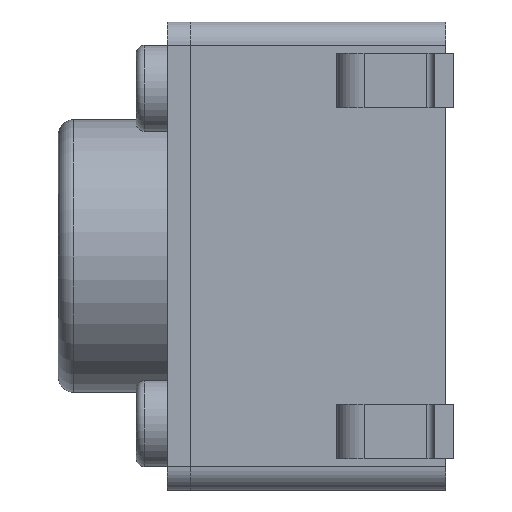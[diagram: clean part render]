
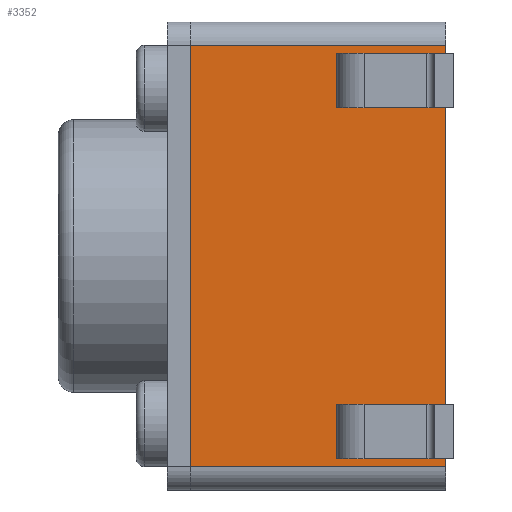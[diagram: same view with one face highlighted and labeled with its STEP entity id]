
A CAD part, left-side view. The second image highlights one B-rep face of the part: STEP entity #3352.
In plain terms, the highlighted planar face has unit normal (-1, 0, 0).
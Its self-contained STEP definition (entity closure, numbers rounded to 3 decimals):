
#123 = DIRECTION ( 'NONE',  ( 0., 1., 0. ) ) ;
#149 = DIRECTION ( 'NONE',  ( 0., 0., -1. ) ) ;
#367 = CARTESIAN_POINT ( 'NONE',  ( -3., -8.485, 2.7 ) ) ;
#597 = DIRECTION ( 'NONE',  ( 1., 0., 0. ) ) ;
#679 = EDGE_CURVE ( 'NONE', #2921, #1282, #1043, .T. ) ;
#735 = VECTOR ( 'NONE', #3335, 1000. ) ;
#744 = VERTEX_POINT ( 'NONE', #824 ) ;
#824 = CARTESIAN_POINT ( 'NONE',  ( -3., 3.37, 2.7 ) ) ;
#877 = VERTEX_POINT ( 'NONE', #2977 ) ;
#1024 = VECTOR ( 'NONE', #149, 1000. ) ;
#1043 = LINE ( 'NONE', #1249, #1690 ) ;
#1114 = PLANE ( 'NONE',  #2306 ) ;
#1219 = CARTESIAN_POINT ( 'NONE',  ( -3., 3.37, 2.7 ) ) ;
#1220 = CARTESIAN_POINT ( 'NONE',  ( -3., 0.1, 2.7 ) ) ;
#1249 = CARTESIAN_POINT ( 'NONE',  ( -3., -8.485, -2.7 ) ) ;
#1282 = VERTEX_POINT ( 'NONE', #1974 ) ;
#1310 = DIRECTION ( 'NONE',  ( 0., 1., 0. ) ) ;
#1378 = EDGE_CURVE ( 'NONE', #877, #744, #2731, .T. ) ;
#1684 = DIRECTION ( 'NONE',  ( 0., 0., -1. ) ) ;
#1690 = VECTOR ( 'NONE', #1310, 1000. ) ;
#1760 = LINE ( 'NONE', #1219, #1024 ) ;
#1805 = EDGE_CURVE ( 'NONE', #2921, #877, #2506, .T. ) ;
#1876 = ORIENTED_EDGE ( 'NONE', *, *, #2576, .T. ) ;
#1961 = EDGE_LOOP ( 'NONE', ( #2684, #2749, #2838, #1876 ) ) ;
#1974 = CARTESIAN_POINT ( 'NONE',  ( -3., 3.37, -2.7 ) ) ;
#2124 = VECTOR ( 'NONE', #123, 1000. ) ;
#2191 = CARTESIAN_POINT ( 'NONE',  ( -3., 0.1, -2.7 ) ) ;
#2223 = CARTESIAN_POINT ( 'NONE',  ( -3., -8.485, 2.7 ) ) ;
#2306 = AXIS2_PLACEMENT_3D ( 'NONE', #2223, #597, #1684 ) ;
#2423 = FACE_OUTER_BOUND ( 'NONE', #1961, .T. ) ;
#2506 = LINE ( 'NONE', #1220, #735 ) ;
#2576 = EDGE_CURVE ( 'NONE', #744, #1282, #1760, .T. ) ;
#2684 = ORIENTED_EDGE ( 'NONE', *, *, #679, .F. ) ;
#2731 = LINE ( 'NONE', #367, #2124 ) ;
#2749 = ORIENTED_EDGE ( 'NONE', *, *, #1805, .T. ) ;
#2838 = ORIENTED_EDGE ( 'NONE', *, *, #1378, .T. ) ;
#2921 = VERTEX_POINT ( 'NONE', #2191 ) ;
#2977 = CARTESIAN_POINT ( 'NONE',  ( -3., 0.1, 2.7 ) ) ;
#3335 = DIRECTION ( 'NONE',  ( 0., 0., 1. ) ) ;
#3352 = ADVANCED_FACE ( 'NONE', ( #2423 ), #1114, .F. ) ;
